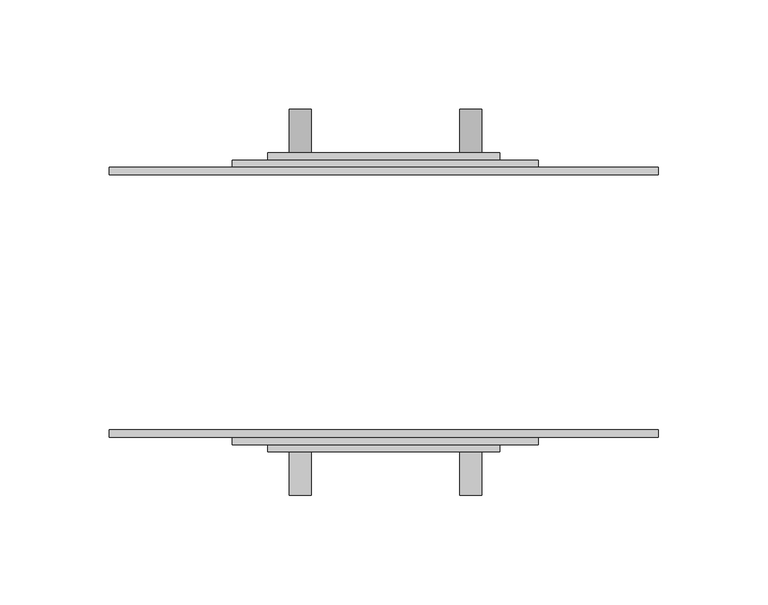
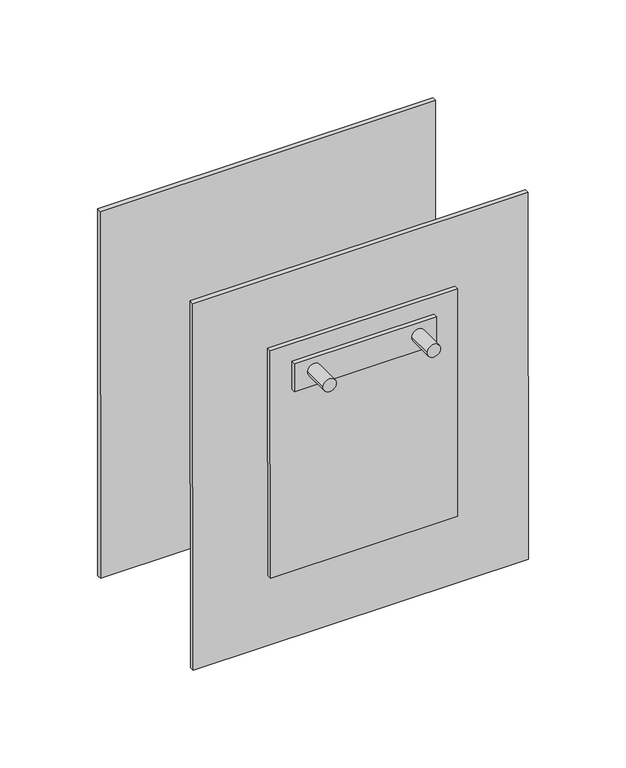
"""IFC4 building model written with IfcOpenShell, lengths in millimetres: proxy geometry, Distribution_Socket_Single_rotated : Distribution_Socket_Single_rotated."""

from ifc_helpers import new_model, si_unit, point, frame, frame_2d, origin, place, context, project, spatial, polyline, circle_curve, trimmed, segment, composite_curve, outline, extrude, source, transform, mapped, element, save


def electrical_equipment_4029a089(model_context):
    return source(origin(), model_context, "Body", "SweptSolid", [
        extrude(outline(composite_curve([segment(trimmed(circle_curve(frame_2d((65.9108106, -38.3495044)), 5.0), [point((65.9071337, -43.349503))], [point((65.9144874, -33.3495057))], False, "CARTESIAN"), True, "CONTINUOUS"), segment(trimmed(circle_curve(frame_2d((65.9108106, -38.3495044)), 5.0), [point((65.9144874, -33.3495057))], [point((65.9071337, -43.349503))], False, "CARTESIAN"), True, "CONTINUOUS")], self_intersect=False)), frame((0.0, 67.25, 0.0), z_axis=(0.0, 1.0, 0.0), x_axis=(0.0, 0.0, 1.0)), (0.0, 0.0, 1.0), 20.9),
        extrude(outline(composite_curve([segment(trimmed(circle_curve(frame_2d((65.9681666, 39.6461612)), 5.0), [point((65.9644897, 34.6461626))], [point((65.9718434, 44.6461599))], False, "CARTESIAN"), True, "CONTINUOUS"), segment(trimmed(circle_curve(frame_2d((65.9681666, 39.6461612)), 5.0), [point((65.9718434, 44.6461599))], [point((65.9644897, 34.6461626))], False, "CARTESIAN"), True, "CONTINUOUS")], self_intersect=False)), frame((0.0, 67.25, 0.0), z_axis=(0.0, 1.0, 0.0), x_axis=(0.0, 0.0, 1.0)), (0.0, 0.0, 1.0), 20.9),
        extrude(outline(composite_curve([segment(trimmed(circle_curve(frame_2d((65.9108106, -38.3495044)), 5.0), [point((65.9071337, -43.349503))], [point((65.9144874, -33.3495057))], False, "CARTESIAN"), True, "CONTINUOUS"), segment(trimmed(circle_curve(frame_2d((65.9108106, -38.3495044)), 5.0), [point((65.9144874, -33.3495057))], [point((65.9071337, -43.349503))], False, "CARTESIAN"), True, "CONTINUOUS")], self_intersect=False)), frame((0.0, -88.15, 0.0), z_axis=(0.0, 1.0, 0.0), x_axis=(0.0, 0.0, 1.0)), (0.0, 0.0, 1.0), 20.9),
        extrude(outline(composite_curve([segment(trimmed(circle_curve(frame_2d((65.9681666, 39.6461612)), 5.0), [point((65.9644897, 34.6461626))], [point((65.9718434, 44.6461599))], False, "CARTESIAN"), True, "CONTINUOUS"), segment(trimmed(circle_curve(frame_2d((65.9681666, 39.6461612)), 5.0), [point((65.9718434, 44.6461599))], [point((65.9644897, 34.6461626))], False, "CARTESIAN"), True, "CONTINUOUS")], self_intersect=False)), frame((0.0, -88.15, 0.0), z_axis=(0.0, 1.0, 0.0), x_axis=(0.0, 0.0, 1.0)), (0.0, 0.0, 1.0), 20.9),
        extrude(outline(polyline([(106.0000706, 0.0), (106.0000706, -3.3705022), (0.0, -3.3705022), (0.0, 0.0), (106.0000706, 0.0)])), frame((-53.0397311, 68.3615, 53.9610106), z_axis=(-0.0007353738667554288, 0.0, 0.9999997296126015), x_axis=(0.9999997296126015, 0.0, 0.0007353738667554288)), (0.0, 0.0, 1.0), 22.0),
        extrude(outline(polyline([(106.0000706, -136.723), (0.0, -136.723), (0.0, -133.3524978), (106.0000706, -133.3524978), (106.0000706, -136.723)])), frame((-53.0397311, 68.3615, 53.9610106), z_axis=(-0.0007353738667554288, 0.0, 0.9999997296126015), x_axis=(0.9999997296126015, 0.0, 0.0007353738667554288)), (0.0, 0.0, 1.0), 22.0),
        extrude(outline(polyline([(3.3704978, 0.0), (3.3704978, -140.0000302), (0.0, -140.0000302), (0.0, 0.0), (3.3704978, 0.0)])), frame((-69.3139377, 61.6205, -90.050996), z_axis=(-0.0007353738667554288, 0.0, 0.9999997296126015), x_axis=(0.0, 1.0, 0.0)), (0.0, 0.0, 1.0), 180.0),
        extrude(outline(polyline([(-126.6114978, 0.0), (-123.2410004, 0.0), (-123.2410004, -140.0000302), (-126.6114978, -140.0000302), (-126.6114978, 0.0)])), frame((-69.3139377, 61.6205, -90.050996), z_axis=(-0.0007353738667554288, 0.0, 0.9999997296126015), x_axis=(0.0, 1.0, 0.0)), (0.0, 0.0, 1.0), 180.0),
        extrude(outline(polyline([(250.7451946, 0.0), (250.7451946, -3.3705), (0.0, -3.3705), (0.0, 0.0), (250.7451946, 0.0)])), frame((-125.2659342, 61.6205, -145.0921565), z_axis=(-0.0007353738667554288, 0.0, 0.9999997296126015), x_axis=(0.9999997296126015, 0.0, 0.0007353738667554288)), (0.0, 0.0, 1.0), 290.0),
        extrude(outline(polyline([(0.0, -123.2410004), (0.0, -119.8705), (250.7451946, -119.8705), (250.7451946, -123.2410004), (0.0, -123.2410004)])), frame((-125.2659342, 61.6205, -145.0921565), z_axis=(-0.0007353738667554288, 0.0, 0.9999997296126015), x_axis=(0.9999997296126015, 0.0, 0.0007353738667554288)), (0.0, 0.0, 1.0), 290.0),
    ])


if __name__ == "__main__":
    model = new_model("IFC4")
    model_context = context("Model", 3, world=origin())
    ifc_project = project(units=[si_unit("LENGTHUNIT", "METRE", prefix="MILLI")], contexts=[model_context])
    site = spatial("IfcSite", under=ifc_project)
    building = spatial("IfcBuilding", under=site)
    placement = place(None, origin())
    electrical_equipment_shape = electrical_equipment_4029a089(model_context)
    element("IfcBuildingElementProxy", 1, Name="Distribution_Socket_Single_rotated : Distribution_Socket_Single_rotated", ObjectType="Distribution_Socket_Single_rotated : Distribution_Socket_Single_rotated", at=placement, inside=building, context=model_context, shape_type="MappedRepresentation", body=[
        mapped(electrical_equipment_shape, transform((0.0, 0.0, 0.0), x_axis=(1.0, 0.0, 0.0), y_axis=(0.0, 1.0, 0.0), z_axis=(0.0, 0.0, 1.0))),
    ])
    save(model, "model.ifc")
